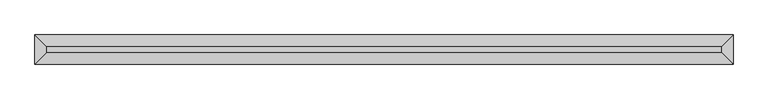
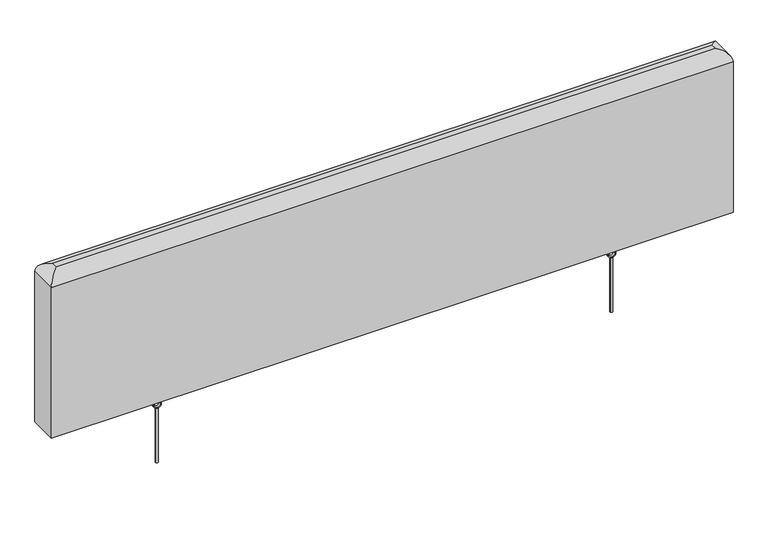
"""IFC4 building model written with IfcOpenShell, lengths in millimetres: proxy geometry, Rockfon Contour 1200 x 300 : Rockfon Contour 1200 x 300 mm."""

from ifc_helpers import new_model, si_unit, point, frame, frame_2d, origin, place, context, project, spatial, circle_curve, ellipse_curve, trimmed, segment, composite_curve, outline, extrude, source, transform, mapped, element, save
from ifc_brep_helpers import plane_surface, cylinder_surface, advanced_brep


def generic_models_ee3f37a8(model_context):
    return source(origin(), model_context, "Body", "SolidModel", [
        extrude(outline(composite_curve([segment(trimmed(circle_curve(frame_2d((400.0, 0.0)), 2.0), [point((398.0, 0.0))], [point((402.0, 0.0))], False, "CARTESIAN"), True, "CONTINUOUS"), segment(trimmed(circle_curve(frame_2d((400.0, 0.0)), 2.0), [point((402.0, 0.0))], [point((398.0, 0.0))], False, "CARTESIAN"), True, "CONTINUOUS")], self_intersect=False)), frame((0.0, 0.0, -1.3501137), z_axis=(0.0, 0.0, 1.0), x_axis=(1.0, 0.0, 0.0)), (0.0, 0.0, 1.0), 101.3501137),
        extrude(outline(composite_curve([segment(trimmed(circle_curve(frame_2d((107.0, 400.0)), 7.0), [point((107.0, 393.0))], [point((107.0, 407.0))], False, "CARTESIAN"), True, "CONTINUOUS"), segment(trimmed(circle_curve(frame_2d((107.0, 400.0)), 7.0), [point((107.0, 407.0))], [point((107.0, 393.0))], False, "CARTESIAN"), True, "CONTINUOUS")], self_intersect=False), holes=[composite_curve([segment(trimmed(circle_curve(frame_2d((107.0, 400.0)), 5.0), [point((107.0, 395.0))], [point((107.0, 405.0))], True, "CARTESIAN"), True, "CONTINUOUS"), segment(trimmed(circle_curve(frame_2d((107.0, 400.0)), 5.0), [point((107.0, 405.0))], [point((107.0, 395.0))], True, "CARTESIAN"), True, "CONTINUOUS")], self_intersect=False)]), frame((0.0, -2.0, 0.0), z_axis=(0.0, 1.0, 0.0), x_axis=(0.0, 0.0, 1.0)), (0.0, 0.0, 1.0), 4.0),
        extrude(outline(composite_curve([segment(trimmed(circle_curve(frame_2d((400.0, 0.0)), 2.0), [point((402.0, 0.0))], [point((398.0, 0.0))], False, "CARTESIAN"), True, "CONTINUOUS"), segment(trimmed(circle_curve(frame_2d((400.0, 0.0)), 2.0), [point((398.0, 0.0))], [point((402.0, 0.0))], False, "CARTESIAN"), True, "CONTINUOUS")], self_intersect=False)), frame((0.0, 0.0, 114.0), z_axis=(0.0, 0.0, 1.0), x_axis=(1.0, 0.0, 0.0)), (0.0, 0.0, 1.0), 14.0914231),
        extrude(outline(composite_curve([segment(trimmed(circle_curve(frame_2d((400.0, 0.0)), 12.0), [point((388.0, 0.0))], [point((412.0, 0.0))], False, "CARTESIAN"), True, "CONTINUOUS"), segment(trimmed(circle_curve(frame_2d((400.0, 0.0)), 12.0), [point((412.0, 0.0))], [point((388.0, 0.0))], False, "CARTESIAN"), True, "CONTINUOUS")], self_intersect=False), holes=[composite_curve([segment(trimmed(circle_curve(frame_2d((400.0, 0.0)), 2.0), [point((398.0, 0.0))], [point((402.0, 0.0))], True, "CARTESIAN"), True, "CONTINUOUS"), segment(trimmed(circle_curve(frame_2d((400.0, 0.0)), 2.0), [point((402.0, 0.0))], [point((398.0, 0.0))], True, "CARTESIAN"), True, "CONTINUOUS")], self_intersect=False), composite_curve([segment(trimmed(circle_curve(frame_2d((400.0, 7.5561162)), 2.0), [point((398.0, 7.5561162))], [point((402.0, 7.5561162))], True, "CARTESIAN"), True, "CONTINUOUS"), segment(trimmed(circle_curve(frame_2d((400.0, 7.5561162)), 2.0), [point((402.0, 7.5561162))], [point((398.0, 7.5561162))], True, "CARTESIAN"), True, "CONTINUOUS")], self_intersect=False), composite_curve([segment(trimmed(circle_curve(frame_2d((406.6821678, 3.7395973)), 2.0), [point((404.6821678, 3.7395973))], [point((408.6821678, 3.7395973))], True, "CARTESIAN"), True, "CONTINUOUS"), segment(trimmed(circle_curve(frame_2d((406.6821678, 3.7395973)), 2.0), [point((408.6821678, 3.7395973))], [point((404.6821678, 3.7395973))], True, "CARTESIAN"), True, "CONTINUOUS")], self_intersect=False), composite_curve([segment(trimmed(circle_curve(frame_2d((393.491743, 3.7395973)), 2.0), [point((391.491743, 3.7395973))], [point((395.491743, 3.7395973))], True, "CARTESIAN"), True, "CONTINUOUS"), segment(trimmed(circle_curve(frame_2d((393.491743, 3.7395973)), 2.0), [point((395.491743, 3.7395973))], [point((391.491743, 3.7395973))], True, "CARTESIAN"), True, "CONTINUOUS")], self_intersect=False), composite_curve([segment(trimmed(circle_curve(frame_2d((400.0, -7.5561162)), 2.0), [point((398.0, -7.5561162))], [point((402.0, -7.5561162))], True, "CARTESIAN"), True, "CONTINUOUS"), segment(trimmed(circle_curve(frame_2d((400.0, -7.5561162)), 2.0), [point((402.0, -7.5561162))], [point((398.0, -7.5561162))], True, "CARTESIAN"), True, "CONTINUOUS")], self_intersect=False), composite_curve([segment(trimmed(circle_curve(frame_2d((406.6821678, -3.7395973)), 2.0), [point((404.6821678, -3.7395973))], [point((408.6821678, -3.7395973))], True, "CARTESIAN"), True, "CONTINUOUS"), segment(trimmed(circle_curve(frame_2d((406.6821678, -3.7395973)), 2.0), [point((408.6821678, -3.7395973))], [point((404.6821678, -3.7395973))], True, "CARTESIAN"), True, "CONTINUOUS")], self_intersect=False), composite_curve([segment(trimmed(circle_curve(frame_2d((393.491743, -3.7395973)), 2.0), [point((391.491743, -3.7395973))], [point((395.491743, -3.7395973))], True, "CARTESIAN"), True, "CONTINUOUS"), segment(trimmed(circle_curve(frame_2d((393.491743, -3.7395973)), 2.0), [point((395.491743, -3.7395973))], [point((391.491743, -3.7395973))], True, "CARTESIAN"), True, "CONTINUOUS")], self_intersect=False)]), frame((0.0, 0.0, 127.0914231), z_axis=(0.0, 0.0, 1.0), x_axis=(1.0, 0.0, 0.0)), (0.0, 0.0, 1.0), 1.0),
        advanced_brep(
        [(-600.0, -25.0, 128.0914231), (600.0, -25.0, 128.0914231), (600.0, -25.0, 408.0914231), (-600.0, -25.0, 408.0914231), (600.0, 25.0, 128.0914231), (-600.0, 25.0, 128.0914231), (-600.0, 25.0, 408.0914231), (600.0, 25.0, 408.0914231), (580.0, 5.0, 428.0914231), (-580.0, 5.0, 428.0914231), (-580.0, -5.0, 428.0914231), (580.0, -5.0, 428.0914231)],
        [
            (0, 1),
            (1, 2),
            (2, 3),
            (3, 0),
            (4, 5),
            (5, 6),
            (6, 7),
            (7, 4),
            (1, 4),
            (7, 2),
            (8, 9),
            (9, 10),
            (10, 11),
            (11, 8),
            (5, 0),
            (3, 6),
            (6, 9, ellipse_curve(frame((-580.0, 5.0, 408.0914231), z_axis=(0.7071067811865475, 0.7071067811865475, 0.0), x_axis=(-0.7071067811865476, 0.7071067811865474, 0.0)), 28.2842712, 20.0)),
            (8, 7, ellipse_curve(frame((580.0, 5.0, 408.0914231), z_axis=(-0.7071067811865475, 0.7071067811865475, 0.0), x_axis=(-0.7071067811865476, -0.7071067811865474, 0.0)), 28.2842712, 20.0)),
            (3, 10, ellipse_curve(frame((-580.0, -5.0, 408.0914231), z_axis=(-0.7071067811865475, 0.7071067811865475, 0.0), x_axis=(-0.7071067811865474, -0.7071067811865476, 0.0)), 28.2842712, 20.0)),
            (2, 11, ellipse_curve(frame((580.0, -5.0, 408.0914231), z_axis=(-0.7071067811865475, -0.7071067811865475, 0.0), x_axis=(0.7071067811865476, -0.7071067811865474, 0.0)), 28.2842712, 20.0)),
        ],
        [
            plane_surface(frame((600.0, -25.0, 128.0914231), z_axis=(0.0, -1.0, 0.0), x_axis=(0.0, 0.0, 1.0))),
            plane_surface(frame((600.0, 25.0, 128.0914231), z_axis=(0.0, 1.0, 0.0), x_axis=(0.0, 0.0, -1.0))),
            plane_surface(frame((600.0, -25.0, 128.0914231), z_axis=(1.0, 0.0, 0.0), x_axis=(0.0, 1.0, 0.0))),
            plane_surface(frame((600.0, -25.0, 428.0914231), z_axis=(0.0, 0.0, 1.0), x_axis=(0.0, 1.0, 0.0))),
            plane_surface(frame((-600.0, -25.0, 428.0914231), z_axis=(-1.0, 0.0, 0.0), x_axis=(0.0, 1.0, 0.0))),
            plane_surface(frame((-600.0, -25.0, 128.0914231), z_axis=(0.0, 0.0, -1.0), x_axis=(0.0, 1.0, 0.0))),
            cylinder_surface(frame((600.0, 5.0, 408.0914231), z_axis=(-1.0, 0.0, 0.0), x_axis=(0.0, -1.0, 0.0)), 20.0),
            cylinder_surface(frame((-580.0, 25.0, 408.0914231), z_axis=(0.0, -1.0, 0.0), x_axis=(1.0, 0.0, 0.0)), 20.0),
            cylinder_surface(frame((-600.0, -5.0, 408.0914231), z_axis=(1.0, 0.0, 0.0), x_axis=(0.0, 1.0, 0.0)), 20.0),
            cylinder_surface(frame((580.0, -25.0, 408.0914231), z_axis=(0.0, 1.0, 0.0), x_axis=(-1.0, 0.0, 0.0)), 20.0),
        ],
        [
            (0, [[1, 2, 3, 4]]),
            (1, [[5, 6, 7, 8]]),
            (2, [[9, -8, 10, -2]]),
            (3, [[11, 12, 13, 14]]),
            (4, [[15, -4, 16, -6]]),
            (5, [[-1, -15, -5, -9]]),
            (6, [[17, -11, 18, -7]]),
            (7, [[-17, -16, 19, -12]]),
            (8, [[-19, -3, 20, -13]]),
            (9, [[-18, -14, -20, -10]]),
        ],
    ),
        extrude(outline(composite_curve([segment(trimmed(circle_curve(frame_2d((-400.0, 0.0)), 2.0), [point((-402.0, 0.0))], [point((-398.0, 0.0))], False, "CARTESIAN"), True, "CONTINUOUS"), segment(trimmed(circle_curve(frame_2d((-400.0, 0.0)), 2.0), [point((-398.0, 0.0))], [point((-402.0, 0.0))], False, "CARTESIAN"), True, "CONTINUOUS")], self_intersect=False)), frame((0.0, 0.0, -1.3501137), z_axis=(0.0, 0.0, 1.0), x_axis=(1.0, 0.0, 0.0)), (0.0, 0.0, 1.0), 101.3501137),
        extrude(outline(composite_curve([segment(trimmed(circle_curve(frame_2d((107.0, -400.0)), 7.0), [point((107.0, -407.0))], [point((107.0, -393.0))], False, "CARTESIAN"), True, "CONTINUOUS"), segment(trimmed(circle_curve(frame_2d((107.0, -400.0)), 7.0), [point((107.0, -393.0))], [point((107.0, -407.0))], False, "CARTESIAN"), True, "CONTINUOUS")], self_intersect=False), holes=[composite_curve([segment(trimmed(circle_curve(frame_2d((107.0, -400.0)), 5.0), [point((107.0, -405.0))], [point((107.0, -395.0))], True, "CARTESIAN"), True, "CONTINUOUS"), segment(trimmed(circle_curve(frame_2d((107.0, -400.0)), 5.0), [point((107.0, -395.0))], [point((107.0, -405.0))], True, "CARTESIAN"), True, "CONTINUOUS")], self_intersect=False)]), frame((0.0, -2.0, 0.0), z_axis=(0.0, 1.0, 0.0), x_axis=(0.0, 0.0, 1.0)), (0.0, 0.0, 1.0), 4.0),
        extrude(outline(composite_curve([segment(trimmed(circle_curve(frame_2d((-400.0, 0.0)), 2.0), [point((-398.0, 0.0))], [point((-402.0, 0.0))], False, "CARTESIAN"), True, "CONTINUOUS"), segment(trimmed(circle_curve(frame_2d((-400.0, 0.0)), 2.0), [point((-402.0, 0.0))], [point((-398.0, 0.0))], False, "CARTESIAN"), True, "CONTINUOUS")], self_intersect=False)), frame((0.0, 0.0, 114.0), z_axis=(0.0, 0.0, 1.0), x_axis=(1.0, 0.0, 0.0)), (0.0, 0.0, 1.0), 14.0914231),
        extrude(outline(composite_curve([segment(trimmed(circle_curve(frame_2d((-400.0, 0.0)), 12.0), [point((-412.0, 0.0))], [point((-388.0, 0.0))], False, "CARTESIAN"), True, "CONTINUOUS"), segment(trimmed(circle_curve(frame_2d((-400.0, 0.0)), 12.0), [point((-388.0, 0.0))], [point((-412.0, 0.0))], False, "CARTESIAN"), True, "CONTINUOUS")], self_intersect=False), holes=[composite_curve([segment(trimmed(circle_curve(frame_2d((-400.0, 0.0)), 2.0), [point((-402.0, 0.0))], [point((-398.0, 0.0))], True, "CARTESIAN"), True, "CONTINUOUS"), segment(trimmed(circle_curve(frame_2d((-400.0, 0.0)), 2.0), [point((-398.0, 0.0))], [point((-402.0, 0.0))], True, "CARTESIAN"), True, "CONTINUOUS")], self_intersect=False), composite_curve([segment(trimmed(circle_curve(frame_2d((-400.0, 7.5561162)), 2.0), [point((-402.0, 7.5561162))], [point((-398.0, 7.5561162))], True, "CARTESIAN"), True, "CONTINUOUS"), segment(trimmed(circle_curve(frame_2d((-400.0, 7.5561162)), 2.0), [point((-398.0, 7.5561162))], [point((-402.0, 7.5561162))], True, "CARTESIAN"), True, "CONTINUOUS")], self_intersect=False), composite_curve([segment(trimmed(circle_curve(frame_2d((-393.3178322, 3.7395973)), 2.0), [point((-395.3178322, 3.7395973))], [point((-391.3178322, 3.7395973))], True, "CARTESIAN"), True, "CONTINUOUS"), segment(trimmed(circle_curve(frame_2d((-393.3178322, 3.7395973)), 2.0), [point((-391.3178322, 3.7395973))], [point((-395.3178322, 3.7395973))], True, "CARTESIAN"), True, "CONTINUOUS")], self_intersect=False), composite_curve([segment(trimmed(circle_curve(frame_2d((-406.508257, 3.7395973)), 2.0), [point((-408.508257, 3.7395973))], [point((-404.508257, 3.7395973))], True, "CARTESIAN"), True, "CONTINUOUS"), segment(trimmed(circle_curve(frame_2d((-406.508257, 3.7395973)), 2.0), [point((-404.508257, 3.7395973))], [point((-408.508257, 3.7395973))], True, "CARTESIAN"), True, "CONTINUOUS")], self_intersect=False), composite_curve([segment(trimmed(circle_curve(frame_2d((-400.0, -7.5561162)), 2.0), [point((-402.0, -7.5561162))], [point((-398.0, -7.5561162))], True, "CARTESIAN"), True, "CONTINUOUS"), segment(trimmed(circle_curve(frame_2d((-400.0, -7.5561162)), 2.0), [point((-398.0, -7.5561162))], [point((-402.0, -7.5561162))], True, "CARTESIAN"), True, "CONTINUOUS")], self_intersect=False), composite_curve([segment(trimmed(circle_curve(frame_2d((-393.3178322, -3.7395973)), 2.0), [point((-395.3178322, -3.7395973))], [point((-391.3178322, -3.7395973))], True, "CARTESIAN"), True, "CONTINUOUS"), segment(trimmed(circle_curve(frame_2d((-393.3178322, -3.7395973)), 2.0), [point((-391.3178322, -3.7395973))], [point((-395.3178322, -3.7395973))], True, "CARTESIAN"), True, "CONTINUOUS")], self_intersect=False), composite_curve([segment(trimmed(circle_curve(frame_2d((-406.508257, -3.7395973)), 2.0), [point((-408.508257, -3.7395973))], [point((-404.508257, -3.7395973))], True, "CARTESIAN"), True, "CONTINUOUS"), segment(trimmed(circle_curve(frame_2d((-406.508257, -3.7395973)), 2.0), [point((-404.508257, -3.7395973))], [point((-408.508257, -3.7395973))], True, "CARTESIAN"), True, "CONTINUOUS")], self_intersect=False)]), frame((0.0, 0.0, 127.0914231), z_axis=(0.0, 0.0, 1.0), x_axis=(1.0, 0.0, 0.0)), (0.0, 0.0, 1.0), 1.0),
    ])


if __name__ == "__main__":
    model = new_model("IFC4")
    model_context = context("Model", 3, world=origin())
    ifc_project = project(units=[si_unit("LENGTHUNIT", "METRE", prefix="MILLI")], contexts=[model_context])
    site = spatial("IfcSite", under=ifc_project)
    building = spatial("IfcBuilding", under=site)
    placement = place(None, origin())
    generic_models_shape = generic_models_ee3f37a8(model_context)
    element("IfcBuildingElementProxy", 1, Name="Rockfon Contour 1200 x 300 : Rockfon Contour 1200 x 300 mm", ObjectType="Rockfon Contour 1200 x 300 : Rockfon Contour 1200 x 300 mm", at=placement, inside=building, context=model_context, shape_type="MappedRepresentation", body=[
        mapped(generic_models_shape, transform((0.0, 0.0, 0.0), x_axis=(1.0, 0.0, 0.0), y_axis=(0.0, 1.0, 0.0), z_axis=(0.0, 0.0, 1.0))),
    ])
    save(model, "model.ifc")
